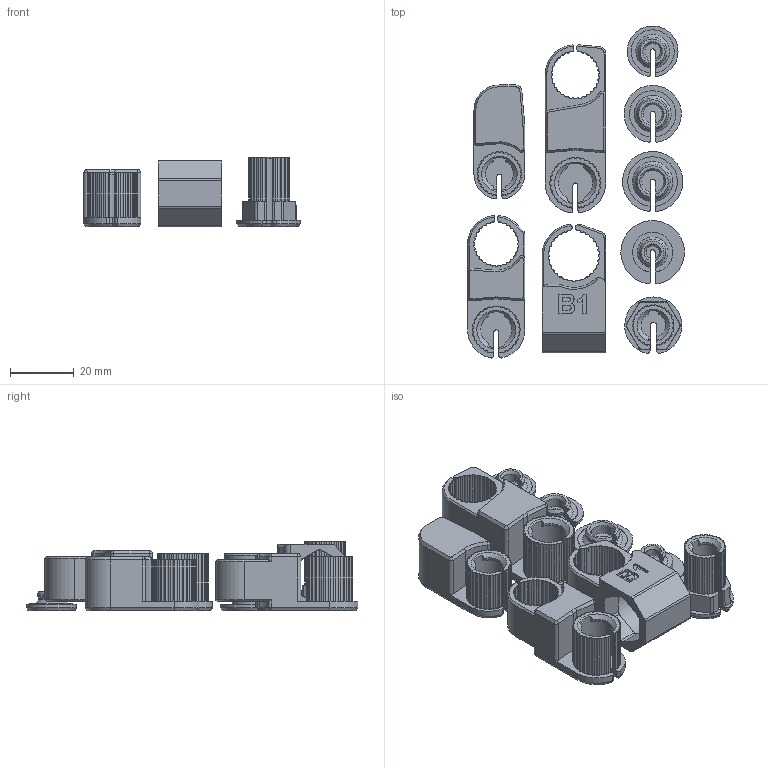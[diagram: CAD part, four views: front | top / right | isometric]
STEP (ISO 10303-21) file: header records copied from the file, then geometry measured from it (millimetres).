
FILE_DESCRIPTION (( 'STEP AP214' ), '1' );
FILE_NAME ('Robot Hand Finger B.STEP', '2024-06-24T13:50:21', ( '' ), ( '' ), 'SwSTEP 2.0', 'SolidWorks 2021', '' );
FILE_SCHEMA (( 'AUTOMOTIVE_DESIGN' ));
Length unit declared in the file: millimetre
Products named in the file (10): Finger B4; Finger B2; Finger B3; Cover B1; Finger B1; Cover B2; Cover counterpart B0; Cover B3; Robot Hand Finger B; Cover B0
Assembly tree (9 placements, depth 2):
  Robot Hand Finger B
    Finger B1
    Finger B2
    Finger B3
    Finger B4
    Cover counterpart B0
    Cover B0
    Cover B1
    Cover B2
    Cover B3
Bounding box: 68.19 x 104.44 x 21.9 mm (x, y, z)
Volume: 33059.4 mm3; surface area: 23623.4 mm2
Topology: 9 solids, 9 shells, 1184 faces, 3260 edges, 2133 vertices
Faces by surface type: cylinder 549, plane 351, bspline 184, cone 100
Full cylindrical faces by diameter (mm): 17 x1
Entity records: 46888 total; most frequent: CARTESIAN_POINT 16861, ORIENTED_EDGE 6514, DIRECTION 5934, EDGE_CURVE 3257, AXIS2_PLACEMENT_3D 2183, VERTEX_POINT 2132, LINE 1568, VECTOR 1568
